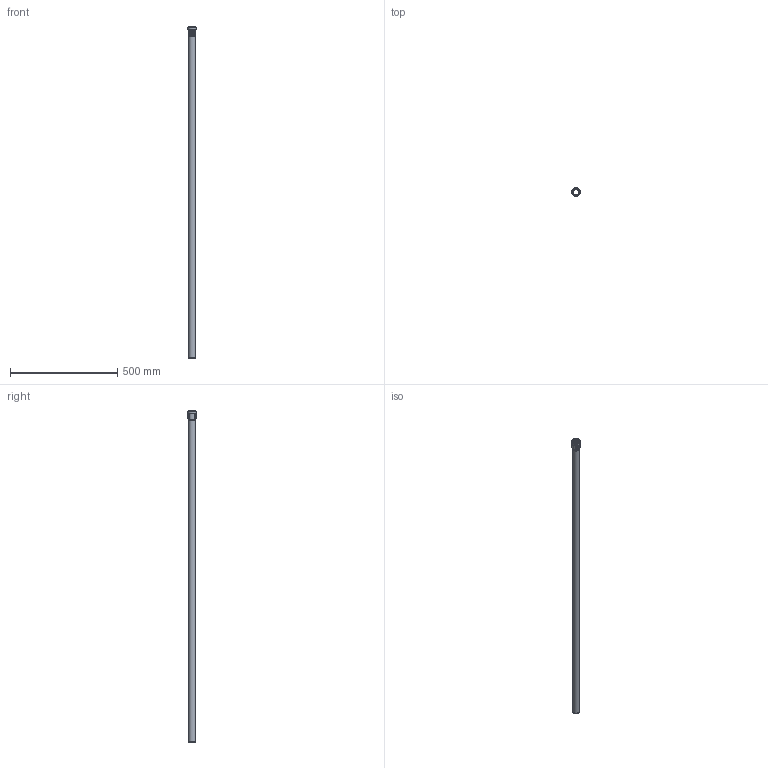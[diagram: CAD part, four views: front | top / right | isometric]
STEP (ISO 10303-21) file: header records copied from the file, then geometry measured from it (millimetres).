
FILE_DESCRIPTION(/* description */ (''),/* implementation_level */ '2;1');
FILE_NAME(/* name */ 'Z:\Geberit\Export\NewStep\390005.stp',/* time_stamp */ '2014-04-02T08:07:52+02:00',/* author */ ('ML'),/* organization */ (''),/* preprocessor_version */ 'ST-DEVELOPER v15.2',/* originating_system */ 'Autodesk Inventor 2014',/* authorisation */ '');
FILE_SCHEMA (('AUTOMOTIVE_DESIGN { 1 0 10303 214 3 1 1 }'));
Length unit declared in the file: millimetre
Products named in the file (3): 861663; 861580ohne; 390005
Bounding box: 41.8 x 41.8 x 1544.3 mm (x, y, z)
Volume: 295917.9 mm3; surface area: 296927.2 mm2
Topology: 2 solids, 2 shells, 47 faces, 104 edges, 71 vertices
Faces by surface type: torus 24, cylinder 11, plane 10, cone 2
Full cylindrical faces by diameter (mm): 28.15 x2, 32.15 x2, 32.8 x2, 34.8 x1, 36.8 x2, 37.8 x1, 41.8 x1
Entity records: 1971 total; most frequent: CARTESIAN_POINT 930, DIRECTION 182, ORIENTED_EDGE 174, AXIS2_PLACEMENT_3D 91, EDGE_CURVE 87, EDGE_LOOP 78, VERTEX_POINT 71, STYLED_ITEM 49
